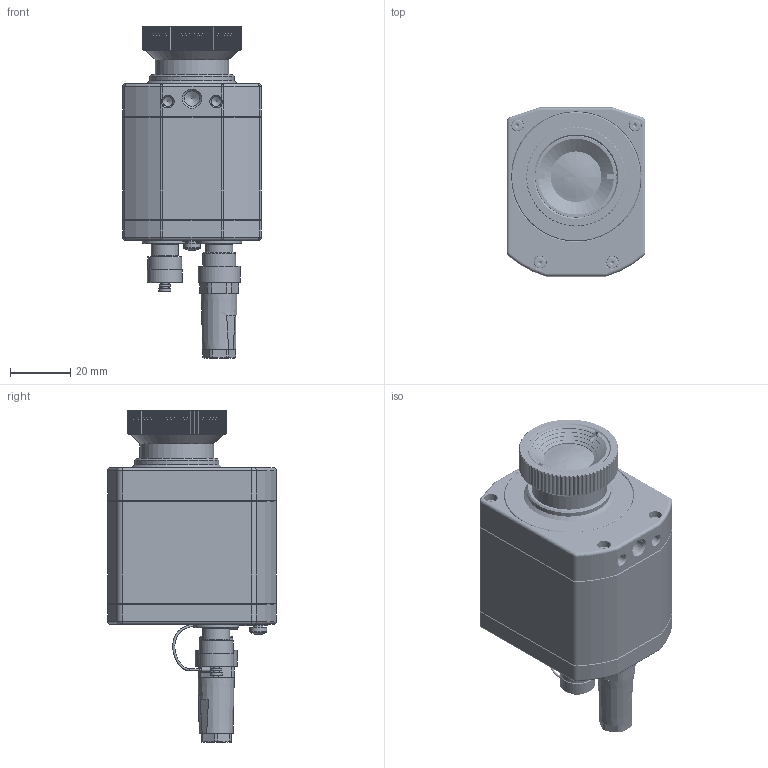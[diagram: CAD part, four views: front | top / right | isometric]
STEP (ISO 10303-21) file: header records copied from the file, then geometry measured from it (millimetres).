
FILE_DESCRIPTION (( 'STEP AP214' ), '1' );
FILE_NAME ('PI-450i2-F7,8.STEP', '2019-12-20T08:48:18', ( 'qwe' ), ( '' ), 'SwSTEP 2.0', 'SolidWorks 2019', '' );
FILE_SCHEMA (( 'AUTOMOTIVE_DESIGN' ));
Length unit declared in the file: millimetre
Products named in the file (26): 54250 Temperaturaufkleber; 63019 O-Ring 19 x 1_O-Ring 16 x 1; 9P219-X Rückwand PI-3; 9P459 Linsengruppe F78-382p17 EFFL=const.SLDPRT; 61103 Linsenschraube KS DIN 7985 A2 M1,6x4_ISO 7045 - M1.6 x 4 - Z --- 4S; PI-450i2-F7,8; 1P201-X Frontplatte-PI3S-XXX; 63169-ff O-Ring NBR 53 x 1,5; 51095 Flanschstecker 712; 5-polig; 1P459 Objektivtubus F78-382p17; 51099 Schutzkappe-712 FS_F〉 Pi 640; 1R092 Linse1-L78-384-GE-p17; 1P202-X Verbindungsrohr-PI3-XXX_1P102-1; 1P468 Schraubring F56-382p17; 61220 Zylinderschraube ISK DIN 912-A2 M2x10_DIN 912 M3 x 5 --- 5S; 1P203-X Heckplatte-PI3-XXX; 51084 Kabeldose 712_4-polig; 61301 Linsenschraube DIN 7985 VZ M3x5_Linsenschraube KS DIN 7985 VZ M3x5; 63023 O-Ring 23x1_O-Ring 23 x 1; 63169-f O-Ring NBR 53 x 1,5; 1R093 Linse2-L78-384-GE-p17; 1P210-4 Objektivhaltering-PI3 M24; 9P459 Objektivgruppe L78-382p17-1P458-RevC; 63038 O-Ring 41 x 1_O-Ring 38 x 1,5; 51093 Flanschstecker 712; 5-1polig; 1P458 Linsenring F13-382p17
Assembly tree (34 placements, depth 4):
  PI-450i2-F7,8
    1P201-X Frontplatte-PI3S-XXX
    9P219-X Rückwand PI-3
      1P203-X Heckplatte-PI3-XXX
      51093 Flanschstecker 712; 5-1polig
      51095 Flanschstecker 712; 5-polig
      61301 Linsenschraube DIN 7985 VZ M3x5_Linsenschraube KS DIN 7985 VZ M3x5
      54250 Temperaturaufkleber
      51099 Schutzkappe-712 FS_F〉 Pi 640
      63169-f O-Ring NBR 53 x 1,5
    1P202-X Verbindungsrohr-PI3-XXX_1P102-1
    1P210-4 Objektivhaltering-PI3 M24
    61103 Linsenschraube KS DIN 7985 A2 M1,6x4_ISO 7045 - M1.6 x 4 - Z --- 4S  x3
    61220 Zylinderschraube ISK DIN 912-A2 M2x10_DIN 912 M3 x 5 --- 5S  x8
    63038 O-Ring 41 x 1_O-Ring 38 x 1,5
    63169-ff O-Ring NBR 53 x 1,5
    51084 Kabeldose 712_4-polig
    9P459 Objektivgruppe L78-382p17-1P458-RevC
      1P458 Linsenring F13-382p17
      1P459 Objektivtubus F78-382p17
      63023 O-Ring 23x1_O-Ring 23 x 1
      63019 O-Ring 19 x 1_O-Ring 16 x 1
      9P459 Linsengruppe F78-382p17 EFFL=const.SLDPRT
        1R092 Linse1-L78-384-GE-p17
        1R093 Linse2-L78-384-GE-p17
      1P468 Schraubring F56-382p17
Bounding box: 46 x 56 x 110.08 mm (x, y, z)
Volume: 60387.7 mm3; surface area: 57371.9 mm2
Topology: 31 solids, 42 shells, 2685 faces, 6443 edges, 3900 vertices
Faces by surface type: cylinder 916, cone 881, plane 708, torus 95, bspline 79, sphere 6
Full cylindrical faces by diameter (mm): 0.7 x3, 0.9 x9, 1 x22, 1.25 x5, 1.5 x14, 1.6 x43, 1.7 x3, 2 x145, 2.2 x8, 2.5 x1, 3 x9, 3.2 x3, 3.3 x2, 3.4 x1, 3.8 x8, 4 x1, 4.4 x8, 5.105 x1, 5.5 x1, 5.6 x1, 6 x2, 6.6 x2, 7.9 x2, 8 x3, 8.5 x1, 9 x4, 10 x6, 11 x1, 11.2 x1, 11.6 x1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
Entity records: 76115 total; most frequent: CARTESIAN_POINT 28115, DIRECTION 9627, ORIENTED_EDGE 9067, EDGE_CURVE 4538, AXIS2_PLACEMENT_3D 3892, VERTEX_POINT 3071, EDGE_LOOP 2614, FACE_OUTER_BOUND 2297
